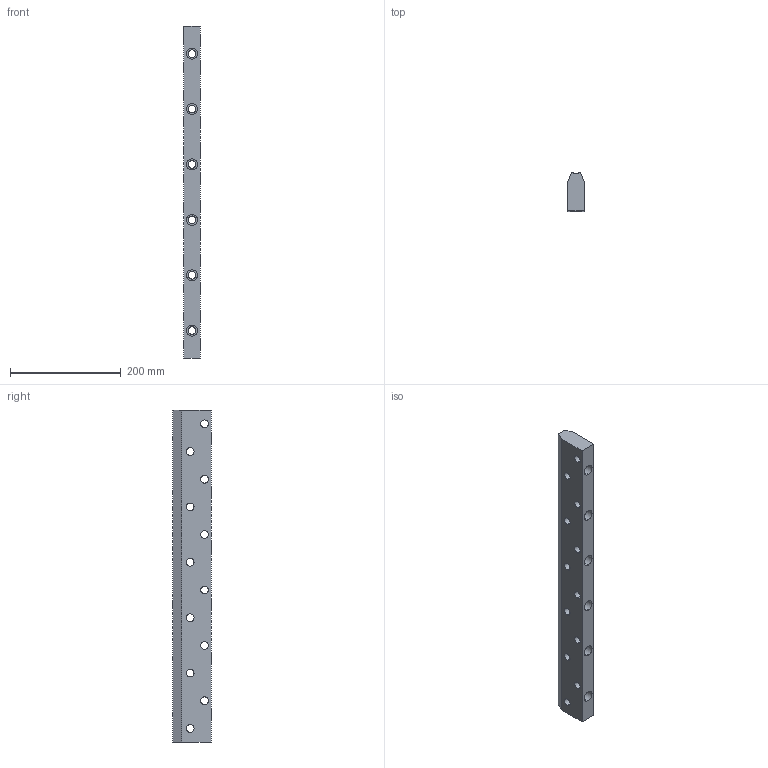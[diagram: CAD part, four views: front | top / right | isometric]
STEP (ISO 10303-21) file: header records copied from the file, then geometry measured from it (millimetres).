
FILE_DESCRIPTION (( 'STEP AP203' ), '1' );
FILE_NAME ('FKWU54-140.step', '2020-03-23T07:53:46', ( '' ), ( '' ), 'SwSTEP 2.0', 'SolidWorks 2019', '' );
FILE_SCHEMA (( 'CONFIG_CONTROL_DESIGN' ));
Length unit declared in the file: millimetre
Products named in the file (2): FKWU54-140
Bounding box: 30 x 69.39 x 599.5 mm (x, y, z)
Volume: 997885.5 mm3; surface area: 150572.6 mm2
Topology: 1 solids, 1 shells, 99 faces, 243 edges, 158 vertices
Faces by surface type: cylinder 72, plane 27
Entity records: 3200 total; most frequent: DIRECTION 565, CARTESIAN_POINT 538, ORIENTED_EDGE 486, EDGE_CURVE 243, AXIS2_PLACEMENT_3D 233, VERTEX_POINT 158, EDGE_LOOP 147, CIRCLE 132
